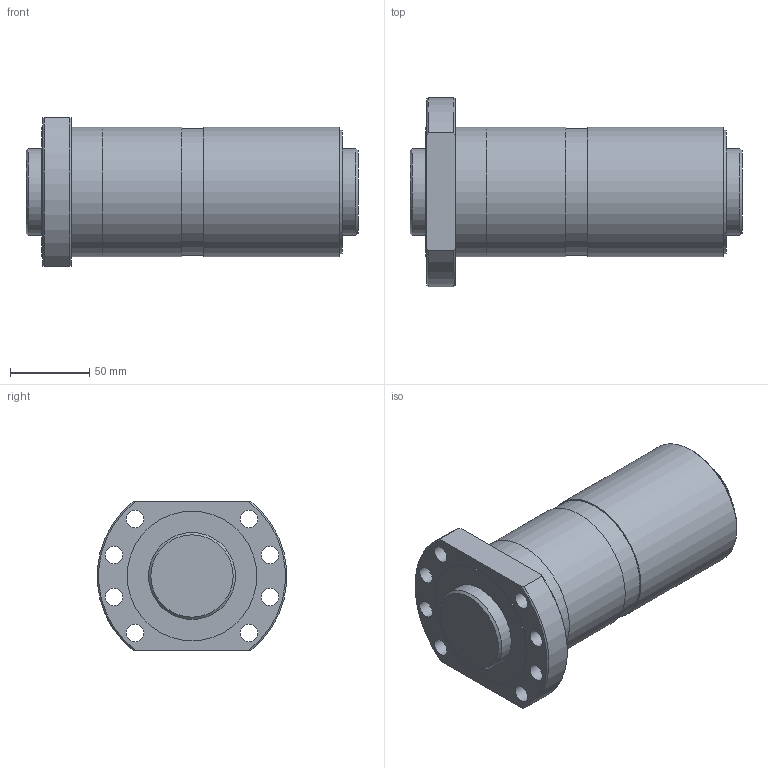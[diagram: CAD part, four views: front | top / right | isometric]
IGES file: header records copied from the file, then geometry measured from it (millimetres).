
Start section: Data from Parasolid IGES Translator 26.0.171, Copyright(c) 2006 Siemens PLM Software. All Rights Reserved.
Global section: file name: SDAN5520VAX-4G0+210LC0(0G000).igs; native system: By Siemens PLM Incorporated; preprocessor: XPlus GENERIC/IGES 26.0.171; author: Noname; organization: Noname; date: 20240704.102236; units: millimetre
Bounding box: 210 x 119.6 x 94 mm (x, y, z)
Surface area: 144348.7 mm2 (no closed solid volume)
Topology: 0 solids, 0 shells, 41 faces, 198 edges, 175 vertices
Faces by surface type: revolution 28, extrusion 13
